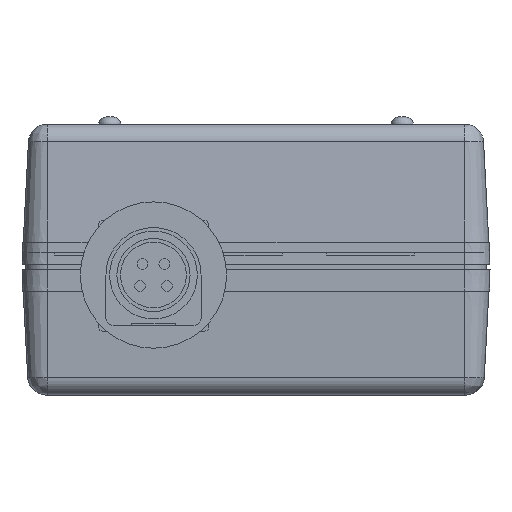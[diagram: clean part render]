
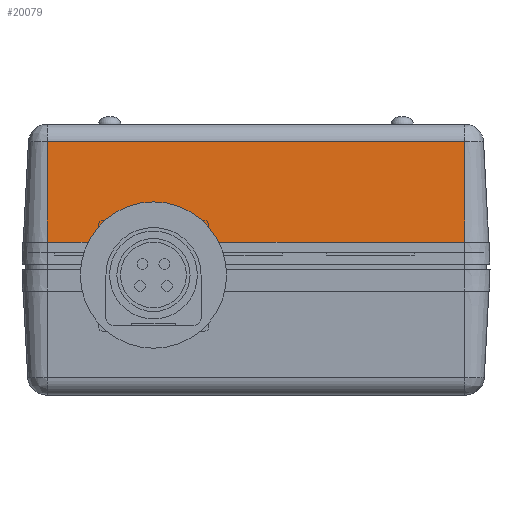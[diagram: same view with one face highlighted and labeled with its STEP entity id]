
A CAD part, front view. The second image highlights one B-rep face of the part: STEP entity #20079.
In plain terms, the highlighted planar face has unit normal (0, -0.999, 0.052).
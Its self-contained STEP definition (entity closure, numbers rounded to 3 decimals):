
#7135 =( BOUNDED_CURVE ( )  B_SPLINE_CURVE ( 3, ( #19291, #19292, #19293, #19294 ),
 .UNSPECIFIED., .F., .T. ) 
 B_SPLINE_CURVE_WITH_KNOTS ( ( 4, 4 ),
 ( 1.588, 3.142 ),
 .UNSPECIFIED. ) 
 CURVE ( )  GEOMETRIC_REPRESENTATION_ITEM ( )  RATIONAL_B_SPLINE_CURVE ( ( 1., 0.809, 0.809, 1. ) ) 
 REPRESENTATION_ITEM ( '' )  );
#10090 = AXIS2_PLACEMENT_3D ( 'NONE', #21028, #21029, #21030 ) ;
#10597 = ORIENTED_EDGE ( 'NONE', *, *, #11187, .F. ) ;
#10599 = ORIENTED_EDGE ( 'NONE', *, *, #11188, .F. ) ;
#10600 = ORIENTED_EDGE ( 'NONE', *, *, #11186, .F. ) ;
#10601 = ORIENTED_EDGE ( 'NONE', *, *, #11189, .F. ) ;
#10602 = ORIENTED_EDGE ( 'NONE', *, *, #11190, .F. ) ;
#10603 = ORIENTED_EDGE ( 'NONE', *, *, #11191, .T. ) ;
#10604 = ORIENTED_EDGE ( 'NONE', *, *, #11192, .T. ) ;
#10605 = ORIENTED_EDGE ( 'NONE', *, *, #11171, .T. ) ;
#10606 = ORIENTED_EDGE ( 'NONE', *, *, #11165, .T. ) ;
#10607 = ORIENTED_EDGE ( 'NONE', *, *, #11162, .T. ) ;
#10608 = ORIENTED_EDGE ( 'NONE', *, *, #11193, .T. ) ;
#10610 = ORIENTED_EDGE ( 'NONE', *, *, #11194, .T. ) ;
#11162 = EDGE_CURVE ( 'NONE', #21835, #21840, #15973, .T. ) ;
#11165 = EDGE_CURVE ( 'NONE', #21840, #21829, #15975, .T. ) ;
#11171 = EDGE_CURVE ( 'NONE', #21825, #21835, #15979, .T. ) ;
#11186 = EDGE_CURVE ( 'NONE', #21808, #21811, #20004, .T. ) ;
#11187 = EDGE_CURVE ( 'NONE', #21811, #21809, #15988, .T. ) ;
#11188 = EDGE_CURVE ( 'NONE', #21807, #21808, #15989, .T. ) ;
#11189 = EDGE_CURVE ( 'NONE', #21805, #21807, #28985, .T. ) ;
#11190 = EDGE_CURVE ( 'NONE', #21804, #21805, #15990, .T. ) ;
#11191 = EDGE_CURVE ( 'NONE', #21804, #21803, #7135, .T. ) ;
#11192 = EDGE_CURVE ( 'NONE', #21803, #21825, #15991, .T. ) ;
#11193 = EDGE_CURVE ( 'NONE', #21829, #21740, #15992, .T. ) ;
#11194 = EDGE_CURVE ( 'NONE', #21740, #21809, #18034, .T. ) ;
#15973 = LINE ( 'NONE', #19217, #23817 ) ;
#15975 = LINE ( 'NONE', #19224, #23820 ) ;
#15979 = LINE ( 'NONE', #19238, #23827 ) ;
#15988 = LINE ( 'NONE', #19281, #23837 ) ;
#15989 = LINE ( 'NONE', #19283, #23838 ) ;
#15990 = LINE ( 'NONE', #19289, #23839 ) ;
#15991 = LINE ( 'NONE', #19295, #23840 ) ;
#15992 = LINE ( 'NONE', #19297, #23841 ) ;
#17129 = FACE_OUTER_BOUND ( 'NONE', #31338, .T. ) ;
#18034 =( BOUNDED_CURVE ( )  B_SPLINE_CURVE ( 3, ( #19299, #19300, #19301, #19302 ),
 .UNSPECIFIED., .F., .T. ) 
 B_SPLINE_CURVE_WITH_KNOTS ( ( 4, 4 ),
 ( 0., 1.553 ),
 .UNSPECIFIED. ) 
 CURVE ( )  GEOMETRIC_REPRESENTATION_ITEM ( )  RATIONAL_B_SPLINE_CURVE ( ( 1., 0.809, 0.809, 1. ) ) 
 REPRESENTATION_ITEM ( '' )  );
#19217 = CARTESIAN_POINT ( 'NONE',  ( -28.5, -74.102, 17.131 ) ) ;
#19218 = DIRECTION ( 'NONE',  ( -1., 0., 0. ) ) ;
#19224 = CARTESIAN_POINT ( 'NONE',  ( -28.5, -75., 0. ) ) ;
#19225 = DIRECTION ( 'NONE',  ( 0., -0.052, -0.999 ) ) ;
#19238 = CARTESIAN_POINT ( 'NONE',  ( 28.5, -75., 0. ) ) ;
#19239 = DIRECTION ( 'NONE',  ( 0., 0.052, 0.999 ) ) ;
#19277 = CARTESIAN_POINT ( 'NONE',  ( -19.091, -74.743, 4.9 ) ) ;
#19278 = CARTESIAN_POINT ( 'NONE',  ( -19.669, -74.743, 4.9 ) ) ;
#19279 = CARTESIAN_POINT ( 'NONE',  ( -20.081, -74.764, 4.495 ) ) ;
#19280 = CARTESIAN_POINT ( 'NONE',  ( -20.091, -74.795, 3.917 ) ) ;
#19281 = CARTESIAN_POINT ( 'NONE',  ( -20.091, -74.795, 3.917 ) ) ;
#19282 = DIRECTION ( 'NONE',  ( -0.017, -0.052, -0.998 ) ) ;
#19283 = CARTESIAN_POINT ( 'NONE',  ( -7.926, -74.743, 4.9 ) ) ;
#19284 = DIRECTION ( 'NONE',  ( -1., 0., 0. ) ) ;
#19285 = CARTESIAN_POINT ( 'NONE',  ( -7.909, -74.795, 3.917 ) ) ;
#19286 = CARTESIAN_POINT ( 'NONE',  ( -7.919, -74.764, 4.495 ) ) ;
#19287 = CARTESIAN_POINT ( 'NONE',  ( -8.331, -74.743, 4.9 ) ) ;
#19288 = CARTESIAN_POINT ( 'NONE',  ( -8.909, -74.743, 4.9 ) ) ;
#19289 = CARTESIAN_POINT ( 'NONE',  ( -7.909, -74.796, 3.891 ) ) ;
#19290 = DIRECTION ( 'NONE',  ( -0.017, 0.052, 0.998 ) ) ;
#19291 = CARTESIAN_POINT ( 'NONE',  ( -7.909, -74.796, 3.891 ) ) ;
#19292 = CARTESIAN_POINT ( 'NONE',  ( -7.904, -74.811, 3.602 ) ) ;
#19293 = CARTESIAN_POINT ( 'NONE',  ( -7.698, -74.822, 3.4 ) ) ;
#19294 = CARTESIAN_POINT ( 'NONE',  ( -7.409, -74.822, 3.4 ) ) ;
#19295 = CARTESIAN_POINT ( 'NONE',  ( 0., -74.822, 3.4 ) ) ;
#19296 = DIRECTION ( 'NONE',  ( 1., 0., 0. ) ) ;
#19297 = CARTESIAN_POINT ( 'NONE',  ( 0., -74.822, 3.4 ) ) ;
#19298 = DIRECTION ( 'NONE',  ( 1., 0., 0. ) ) ;
#19299 = CARTESIAN_POINT ( 'NONE',  ( -20.591, -74.822, 3.4 ) ) ;
#19300 = CARTESIAN_POINT ( 'NONE',  ( -20.302, -74.822, 3.4 ) ) ;
#19301 = CARTESIAN_POINT ( 'NONE',  ( -20.096, -74.811, 3.602 ) ) ;
#19302 = CARTESIAN_POINT ( 'NONE',  ( -20.091, -74.796, 3.891 ) ) ;
#20004 =( BOUNDED_CURVE ( )  B_SPLINE_CURVE ( 3, ( #19277, #19278, #19279, #19280 ),
 .UNSPECIFIED., .F., .T. ) 
 B_SPLINE_CURVE_WITH_KNOTS ( ( 4, 4 ),
 ( 0., 1.553 ),
 .UNSPECIFIED. ) 
 CURVE ( )  GEOMETRIC_REPRESENTATION_ITEM ( )  RATIONAL_B_SPLINE_CURVE ( ( 1., 0.809, 0.809, 1. ) ) 
 REPRESENTATION_ITEM ( '' )  );
#20079 = ADVANCED_FACE ( 'NONE', ( #17129 ), #21027, .T. ) ;
#21027 = PLANE ( 'NONE',  #10090 ) ;
#21028 = CARTESIAN_POINT ( 'NONE',  ( -28.5, -75., 0. ) ) ;
#21029 = DIRECTION ( 'NONE',  ( 0., -0.999, 0.052 ) ) ;
#21030 = DIRECTION ( 'NONE',  ( 0., -0.052, -0.999 ) ) ;
#21155 = CARTESIAN_POINT ( 'NONE',  ( -20.591, -74.822, 3.4 ) ) ;
#21218 = CARTESIAN_POINT ( 'NONE',  ( -7.409, -74.822, 3.4 ) ) ;
#21219 = CARTESIAN_POINT ( 'NONE',  ( -7.909, -74.796, 3.891 ) ) ;
#21220 = CARTESIAN_POINT ( 'NONE',  ( -7.909, -74.795, 3.917 ) ) ;
#21222 = CARTESIAN_POINT ( 'NONE',  ( -8.909, -74.743, 4.9 ) ) ;
#21223 = CARTESIAN_POINT ( 'NONE',  ( -19.091, -74.743, 4.9 ) ) ;
#21224 = CARTESIAN_POINT ( 'NONE',  ( -20.091, -74.796, 3.891 ) ) ;
#21226 = CARTESIAN_POINT ( 'NONE',  ( -20.091, -74.795, 3.917 ) ) ;
#21240 = CARTESIAN_POINT ( 'NONE',  ( 28.5, -74.822, 3.4 ) ) ;
#21244 = CARTESIAN_POINT ( 'NONE',  ( -28.5, -74.822, 3.4 ) ) ;
#21250 = CARTESIAN_POINT ( 'NONE',  ( 28.5, -74.102, 17.131 ) ) ;
#21255 = CARTESIAN_POINT ( 'NONE',  ( -28.5, -74.102, 17.131 ) ) ;
#21740 = VERTEX_POINT ( 'NONE', #21155 ) ;
#21803 = VERTEX_POINT ( 'NONE', #21218 ) ;
#21804 = VERTEX_POINT ( 'NONE', #21219 ) ;
#21805 = VERTEX_POINT ( 'NONE', #21220 ) ;
#21807 = VERTEX_POINT ( 'NONE', #21222 ) ;
#21808 = VERTEX_POINT ( 'NONE', #21223 ) ;
#21809 = VERTEX_POINT ( 'NONE', #21224 ) ;
#21811 = VERTEX_POINT ( 'NONE', #21226 ) ;
#21825 = VERTEX_POINT ( 'NONE', #21240 ) ;
#21829 = VERTEX_POINT ( 'NONE', #21244 ) ;
#21835 = VERTEX_POINT ( 'NONE', #21250 ) ;
#21840 = VERTEX_POINT ( 'NONE', #21255 ) ;
#23817 = VECTOR ( 'NONE', #19218, 1000. ) ;
#23820 = VECTOR ( 'NONE', #19225, 1000. ) ;
#23827 = VECTOR ( 'NONE', #19239, 1000. ) ;
#23837 = VECTOR ( 'NONE', #19282, 1000. ) ;
#23838 = VECTOR ( 'NONE', #19284, 1000. ) ;
#23839 = VECTOR ( 'NONE', #19290, 1000. ) ;
#23840 = VECTOR ( 'NONE', #19296, 1000. ) ;
#23841 = VECTOR ( 'NONE', #19298, 1000. ) ;
#28985 =( BOUNDED_CURVE ( )  B_SPLINE_CURVE ( 3, ( #19285, #19286, #19287, #19288 ),
 .UNSPECIFIED., .F., .T. ) 
 B_SPLINE_CURVE_WITH_KNOTS ( ( 4, 4 ),
 ( 4.73, 6.283 ),
 .UNSPECIFIED. ) 
 CURVE ( )  GEOMETRIC_REPRESENTATION_ITEM ( )  RATIONAL_B_SPLINE_CURVE ( ( 1., 0.809, 0.809, 1. ) ) 
 REPRESENTATION_ITEM ( '' )  );
#31338 = EDGE_LOOP ( 'NONE', ( #10597, #10600, #10599, #10601, #10602, #10603, #10604, #10605, #10607, #10606, #10608, #10610 ) ) ;
